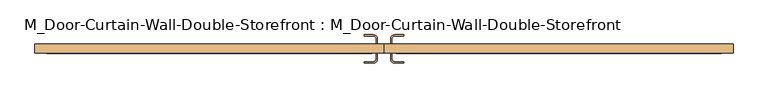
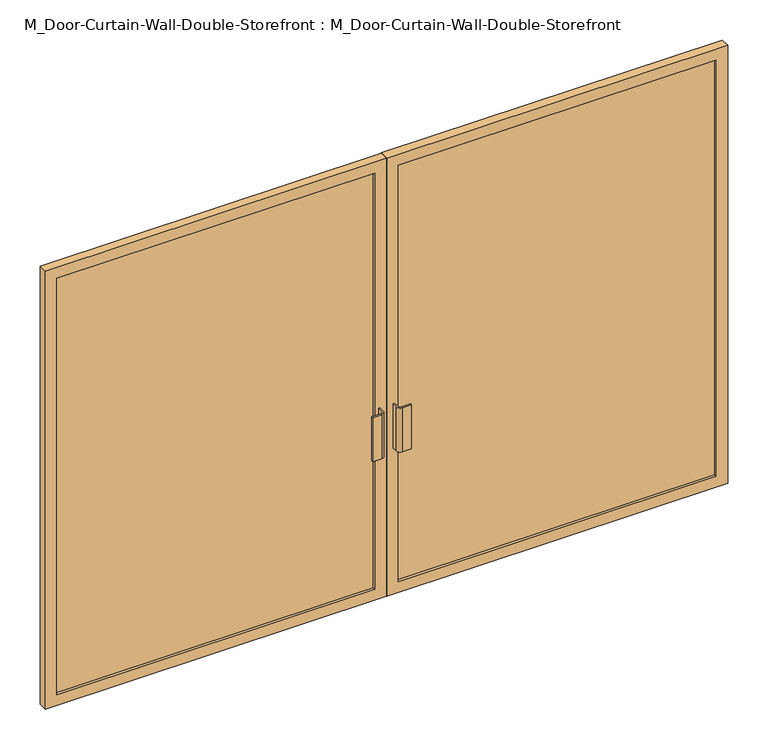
"""IFC4 building model written with IfcOpenShell, lengths in millimetres: door geometry, M_Door-Curtain-Wall-Double-Storefront : M_Door-Curtain-Wall-Double-Storefront."""

from ifc_helpers import new_model, si_unit, point, frame, frame_2d, origin, place, context, project, spatial, polyline, circle_curve, trimmed, segment, composite_curve, outline, extrude, source, transform, mapped, element, save


def m_door_curtain_wall_double_storefront_m_door_curtain_wall_edb91ac7(model_context):
    return source(origin(), model_context, "Body", "SweptSolid", [
        extrude(outline(polyline([(2275.0, 0.8168501), (0.0, 0.8168501), (0.0, 1675.0), (2275.0, 1675.0), (2275.0, 0.8168501)]), holes=[polyline([(2217.85, 57.9668501), (2217.85, 1617.85), (57.15, 1617.85), (57.15, 57.9668501), (2217.85, 57.9668501)])]), frame((0.0, 15.55, 0.0), z_axis=(0.0, 1.0, 0.0), x_axis=(0.0, 0.0, 1.0)), (0.0, 0.0, 1.0), 44.45),
        extrude(outline(polyline([(2275.0, -0.7706499), (2275.0, -1675.0), (0.0, -1675.0), (0.0, -0.7706499), (2275.0, -0.7706499)]), holes=[polyline([(2217.85, -1617.85), (2217.85, -57.9206499), (57.15, -57.9206499), (57.15, -1617.85), (2217.85, -1617.85)])]), frame((0.0, 15.55, 0.0), z_axis=(0.0, 1.0, 0.0), x_axis=(0.0, 0.0, 1.0)), (0.0, 0.0, 1.0), 44.45),
        extrude(outline(polyline([(1617.85, 28.25), (57.9668501, 28.25), (57.9668501, 47.3), (1617.85, 47.3), (1617.85, 28.25)])), frame((0.0, 0.0, 57.15), z_axis=(0.0, 0.0, 1.0), x_axis=(1.0, 0.0, 0.0)), (0.0, 0.0, 1.0), 2160.7),
        extrude(outline(polyline([(-57.9206499, 28.25), (-1617.85, 28.25), (-1617.85, 47.3), (-57.9206499, 47.3), (-57.9206499, 28.25)])), frame((0.0, 0.0, 57.15), z_axis=(0.0, 0.0, 1.0), x_axis=(1.0, 0.0, 0.0)), (0.0, 0.0, 1.0), 2160.7),
        extrude(outline(composite_curve([segment(trimmed(circle_curve(frame_2d((-50.7768999, -12.7)), 19.05), [point((-31.7268999, -12.7))], [point((-50.7768999, -31.75))], False, "CARTESIAN"), True, "CONTINUOUS"), segment(polyline([(-50.7768999, -31.75), (-95.2268999, -31.75), (-95.2268999, -25.4), (-50.7768999, -25.4)]), True, "CONTINUOUS"), segment(trimmed(circle_curve(frame_2d((-50.7768999, -12.7)), 12.7), [point((-50.7768999, -25.4))], [point((-38.0768999, -12.7))], True, "CARTESIAN"), True, "CONTINUOUS"), segment(polyline([(-38.0768999, -12.7), (-38.0768999, 15.55), (-31.7268999, 15.55), (-31.7268999, -12.7)]), True, "CONTINUOUS")], self_intersect=False)), frame((0.0, 0.0, 762.0), z_axis=(0.0, 0.0, 1.0), x_axis=(1.0, 0.0, 0.0)), (0.0, 0.0, 1.0), 228.6),
        extrude(outline(composite_curve([segment(polyline([(31.7731001, -12.7), (31.7731001, 15.55), (38.1231001, 15.55), (38.1231001, -12.7)]), True, "CONTINUOUS"), segment(trimmed(circle_curve(frame_2d((50.8231001, -12.7)), 12.7), [point((38.1231001, -12.7))], [point((50.8231001, -25.4))], True, "CARTESIAN"), True, "CONTINUOUS"), segment(polyline([(50.8231001, -25.4), (95.2731001, -25.4), (95.2731001, -31.75), (50.8231001, -31.75)]), True, "CONTINUOUS"), segment(trimmed(circle_curve(frame_2d((50.8231001, -12.7)), 19.05), [point((50.8231001, -31.75))], [point((31.7731001, -12.7))], False, "CARTESIAN"), True, "CONTINUOUS")], self_intersect=False)), frame((0.0, 0.0, 762.0), z_axis=(0.0, 0.0, 1.0), x_axis=(1.0, 0.0, 0.0)), (0.0, 0.0, 1.0), 228.6),
        extrude(outline(composite_curve([segment(polyline([(-31.7268999, 85.4), (-31.7268999, 60.0), (-38.0768999, 60.0), (-38.0768999, 85.4)]), True, "CONTINUOUS"), segment(trimmed(circle_curve(frame_2d((-50.7768999, 85.4)), 12.7), [point((-38.0768999, 85.4))], [point((-50.7768999, 98.1))], True, "CARTESIAN"), True, "CONTINUOUS"), segment(polyline([(-50.7768999, 98.1), (-95.2268999, 98.1), (-95.2268999, 104.45), (-50.7768999, 104.45)]), True, "CONTINUOUS"), segment(trimmed(circle_curve(frame_2d((-50.7768999, 85.4)), 19.05), [point((-50.7768999, 104.45))], [point((-31.7268999, 85.4))], False, "CARTESIAN"), True, "CONTINUOUS")], self_intersect=False)), frame((0.0, 0.0, 762.0), z_axis=(0.0, 0.0, 1.0), x_axis=(1.0, 0.0, 0.0)), (0.0, 0.0, 1.0), 228.6),
        extrude(outline(composite_curve([segment(trimmed(circle_curve(frame_2d((50.8231001, 85.4)), 19.05), [point((31.7731001, 85.4))], [point((50.8231001, 104.45))], False, "CARTESIAN"), True, "CONTINUOUS"), segment(polyline([(50.8231001, 104.45), (95.2731001, 104.45), (95.2731001, 98.1), (50.8231001, 98.1)]), True, "CONTINUOUS"), segment(trimmed(circle_curve(frame_2d((50.8231001, 85.4)), 12.7), [point((50.8231001, 98.1))], [point((38.1231001, 85.4))], True, "CARTESIAN"), True, "CONTINUOUS"), segment(polyline([(38.1231001, 85.4), (38.1231001, 60.0), (31.7731001, 60.0), (31.7731001, 85.4)]), True, "CONTINUOUS")], self_intersect=False)), frame((0.0, 0.0, 762.0), z_axis=(0.0, 0.0, 1.0), x_axis=(1.0, 0.0, 0.0)), (0.0, 0.0, 1.0), 228.6),
    ])


if __name__ == "__main__":
    model = new_model("IFC4")
    model_context = context("Model", 3, world=origin())
    ifc_project = project(units=[si_unit("LENGTHUNIT", "METRE", prefix="MILLI")], contexts=[model_context])
    site = spatial("IfcSite", under=ifc_project)
    building = spatial("IfcBuilding", under=site)
    placement = place(None, origin())
    m_door_curtain_wall_double_storefront_m_door_curtain_wall_shape = m_door_curtain_wall_double_storefront_m_door_curtain_wall_edb91ac7(model_context)
    element("IfcDoor", 1, ObjectType="M_Door-Curtain-Wall-Double-Storefront : M_Door-Curtain-Wall-Double-Storefront", at=placement, inside=building, context=model_context, shape_type="MappedRepresentation", body=[
        mapped(m_door_curtain_wall_double_storefront_m_door_curtain_wall_shape, transform((0.0, 0.0, 0.0), x_axis=(1.0, 0.0, 0.0), y_axis=(0.0, 1.0, 0.0), z_axis=(0.0, 0.0, 1.0))),
    ])
    save(model, "model.ifc")
